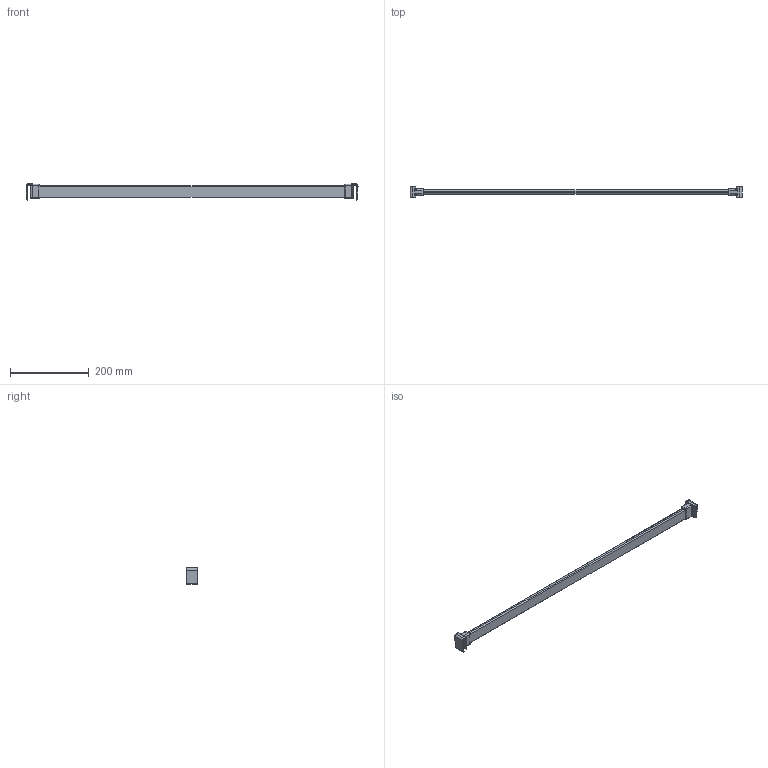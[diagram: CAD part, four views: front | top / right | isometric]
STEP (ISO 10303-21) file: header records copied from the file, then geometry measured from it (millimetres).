
FILE_DESCRIPTION (( 'STEP AP214' ), '1' );
FILE_NAME ('_Querreling_KAB-900_KS-16_P602_Glashalter.step', '2010-08-26T14:59:37', ( 'grass' ), ( '' ), 'SwSTEP 2.0', 'SolidWorks 2009', '' );
FILE_SCHEMA (( 'AUTOMOTIVE_DESIGN' ));
Length unit declared in the file: millimetre
Products named in the file (1): _Querreling_KAB-900_KS-16_P602_Glashalter
Bounding box: 840.78 x 30 x 41.5 mm (x, y, z)
Volume: 274308 mm3; surface area: 73749.2 mm2
Topology: 1 solids, 1 shells, 124 faces, 300 edges, 176 vertices
Faces by surface type: cylinder 58, plane 34, torus 16, bspline 12, sphere 4
Entity records: 5090 total; most frequent: CARTESIAN_POINT 2269, ORIENTED_EDGE 592, DIRECTION 590, EDGE_CURVE 296, AXIS2_PLACEMENT_3D 225, VERTEX_POINT 176, LINE 140, VECTOR 140
